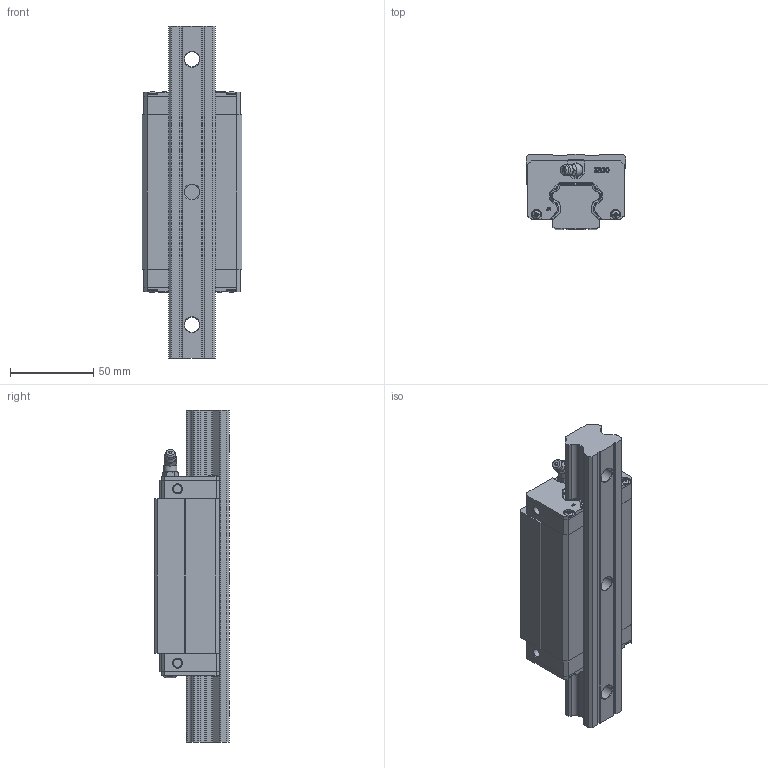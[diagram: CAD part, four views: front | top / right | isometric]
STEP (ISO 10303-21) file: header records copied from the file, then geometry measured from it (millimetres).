
FILE_DESCRIPTION(/* description */ (''),/* implementation_level */ '2;1');
FILE_NAME(/* name */ 'HBH30HA.stp',/* time_stamp */ '2024-09-29T20:49:31+08:00',/* author */ (''),/* organization */ (''),/* preprocessor_version */ 'ST-DEVELOPER v16.7',/* originating_system */ 'SIEMENS PLM Software NX 12.0',/* authorisation */ '');
FILE_SCHEMA (('AUTOMOTIVE_DESIGN { 1 0 10303 214 3 1 1 1 }'));
Products named in the file (3): HBH30HA; HBR30; HBH30HA_stp
Assembly tree (2 placements, depth 2):
  HBH30HA_stp
    HBR30
    HBH30HA
Bounding box: 60 x 45 x 200 mm (x, y, z)
Volume: 327068.7 mm3; surface area: 67140.2 mm2
Topology: 2 solids, 9 shells, 1055 faces, 2877 edges, 1891 vertices
Faces by surface type: plane 595, cylinder 221, extrusion 117, cone 72, bspline 40, torus 7, sphere 3
Full cylindrical faces by diameter (mm): 3 x1, 3.4 x4, 3.7 x1, 5 x4, 6.4 x2, 6.8 x28, 7.8 x1, 8.002 x2, 8.3 x1
Entity records: 74971 total; most frequent: CARTESIAN_POINT 43473, ORIENTED_EDGE 5446, DIRECTION 4557, EDGE_CURVE 2723, VERTEX_POINT 1814, VECTOR 1703, LINE 1586, AXIS2_PLACEMENT_3D 1427
